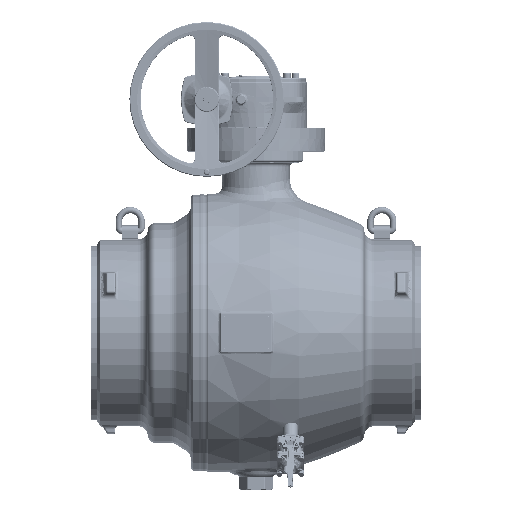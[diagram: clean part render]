
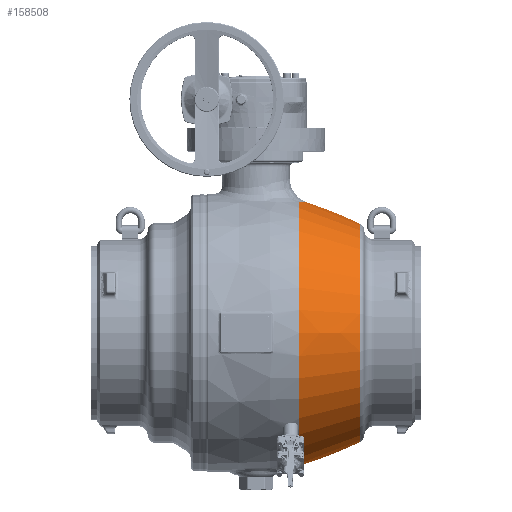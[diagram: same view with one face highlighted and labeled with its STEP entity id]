
A CAD part, top view. The second image highlights one B-rep face of the part: STEP entity #158508.
In plain terms, the highlighted free-form (B-spline) face has degree [3, 3] with [7, 4] control points.
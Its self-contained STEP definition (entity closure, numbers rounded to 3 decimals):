
#36888=CARTESIAN_POINT('',(176.658,-96.05,
531.703));
#36889=CARTESIAN_POINT('',(177.105,-95.395,
531.683));
#36890=CARTESIAN_POINT('',(177.989,-94.081,
531.643));
#36891=CARTESIAN_POINT('',(179.285,-92.099,
531.586));
#36892=CARTESIAN_POINT('',(180.552,-90.105,
531.531));
#36893=CARTESIAN_POINT('',(181.791,-88.101,
531.479));
#36894=CARTESIAN_POINT('',(183.,-86.085,
531.43));
#36895=CARTESIAN_POINT('',(184.18,-84.06,
531.383));
#36896=CARTESIAN_POINT('',(185.33,-82.024,
531.339));
#36897=CARTESIAN_POINT('',(186.452,-79.979,
531.297));
#36898=CARTESIAN_POINT('',(187.544,-77.924,
531.257));
#36899=CARTESIAN_POINT('',(188.606,-75.86,
531.219));
#36900=CARTESIAN_POINT('',(189.639,-73.787,
531.183));
#36901=CARTESIAN_POINT('',(190.643,-71.705,
531.15));
#36902=CARTESIAN_POINT('',(191.617,-69.615,
531.118));
#36903=CARTESIAN_POINT('',(192.562,-67.517,
531.087));
#36904=CARTESIAN_POINT('',(193.477,-65.411,
531.059));
#36905=CARTESIAN_POINT('',(194.362,-63.298,
531.032));
#36906=CARTESIAN_POINT('',(195.218,-61.177,
531.007));
#36907=CARTESIAN_POINT('',(196.044,-59.049,
530.983));
#36908=CARTESIAN_POINT('',(196.84,-56.915,
530.961));
#36909=CARTESIAN_POINT('',(197.607,-54.774,
530.94));
#36910=CARTESIAN_POINT('',(198.343,-52.627,
530.92));
#36911=CARTESIAN_POINT('',(199.05,-50.474,
530.901));
#36912=CARTESIAN_POINT('',(199.727,-48.315,
530.884));
#36913=CARTESIAN_POINT('',(200.374,-46.152,
530.868));
#36914=CARTESIAN_POINT('',(200.991,-43.983,
530.853));
#36915=CARTESIAN_POINT('',(201.578,-41.809,
530.839));
#36916=CARTESIAN_POINT('',(202.135,-39.632,
530.825));
#36917=CARTESIAN_POINT('',(202.662,-37.449,
530.813));
#36918=CARTESIAN_POINT('',(203.159,-35.263,
530.802));
#36919=CARTESIAN_POINT('',(203.626,-33.074,
530.792));
#36920=CARTESIAN_POINT('',(204.062,-30.881,
530.782));
#36921=CARTESIAN_POINT('',(204.469,-28.685,
530.773));
#36922=CARTESIAN_POINT('',(204.845,-26.487,
530.765));
#36923=CARTESIAN_POINT('',(205.192,-24.286,
530.758));
#36924=CARTESIAN_POINT('',(205.508,-22.083,
530.751));
#36925=CARTESIAN_POINT('',(205.794,-19.878,
530.745));
#36926=CARTESIAN_POINT('',(206.05,-17.671,
530.74));
#36927=CARTESIAN_POINT('',(206.276,-15.464,
530.735));
#36928=CARTESIAN_POINT('',(206.472,-13.255,
530.732));
#36929=CARTESIAN_POINT('',(206.637,-11.046,
530.728));
#36930=CARTESIAN_POINT('',(206.773,-8.836,
530.725));
#36931=CARTESIAN_POINT('',(206.878,-6.626,
530.723));
#36932=CARTESIAN_POINT('',(206.953,-4.417,
530.722));
#36933=CARTESIAN_POINT('',(206.998,-2.208,
530.721));
#36934=CARTESIAN_POINT('',(207.008,-0.736,
530.721));
#36935=CARTESIAN_POINT('',(207.008,0.,530.721));
#36937=CARTESIAN_POINT('',(-335.347,0.,-1133.116));
#36938=DIRECTION('',(0.,-1.,0.));
#36939=DIRECTION('',(0.433,0.,0.901));
#36940=AXIS2_PLACEMENT_3D('',#36937,#36938,#36939);
#36942=CARTESIAN_POINT('',(423.,0.,0.));
#36943=DIRECTION('',(1.,0.,0.));
#36944=DIRECTION('',(0.,0.,1.));
#36945=AXIS2_PLACEMENT_3D('',#36942,#36943,#36944);
#36947=CARTESIAN_POINT('',(-335.347,0.,
1133.116));
#36948=DIRECTION('',(0.,1.,0.));
#36949=DIRECTION('',(0.433,0.,-0.901));
#36950=AXIS2_PLACEMENT_3D('',#36947,#36948,#36949);
#37195=CARTESIAN_POINT('',(176.658,-96.05,
531.703));
#37197=CARTESIAN_POINT('',(176.658,0.,0.));
#37198=DIRECTION('',(1.,0.,0.));
#37199=DIRECTION('',(0.,-0.178,0.984));
#37200=AXIS2_PLACEMENT_3D('',#37197,#37198,#37199);
#94841=CARTESIAN_POINT('',(423.,0.,
-444.037));
#94842=CARTESIAN_POINT('',(176.658,0.,
-540.309));
#94843=VERTEX_POINT('',#94841);
#94844=VERTEX_POINT('',#94842);
#94845=CARTESIAN_POINT('',(423.,0.,444.037));
#94846=VERTEX_POINT('',#94845);
#94848=VERTEX_POINT('',#37195);
#94851=VERTEX_POINT('',#36935);
#158471=CARTESIAN_POINT('',(427.769,27.737,
-440.864));
#158472=CARTESIAN_POINT('',(345.093,30.252,
-480.846));
#158473=CARTESIAN_POINT('',(259.525,32.352,
-514.221));
#158474=CARTESIAN_POINT('',(171.593,34.023,
-540.781));
#158475=CARTESIAN_POINT('',(427.769,-243.57,
-457.933));
#158476=CARTESIAN_POINT('',(345.093,-265.66,
-499.463));
#158477=CARTESIAN_POINT('',(259.525,-284.099,
-534.13));
#158478=CARTESIAN_POINT('',(171.593,-298.773,
-561.719));
#158479=CARTESIAN_POINT('',(427.769,-441.735,
-271.843));
#158480=CARTESIAN_POINT('',(345.093,-481.797,
-296.497));
#158481=CARTESIAN_POINT('',(259.525,-515.238,
-317.077));
#158482=CARTESIAN_POINT('',(171.593,-541.851,
-333.454));
#158483=CARTESIAN_POINT('',(427.769,-441.735,
0.));
#158484=CARTESIAN_POINT('',(345.093,-481.797,
0.));
#158485=CARTESIAN_POINT('',(259.525,-515.238,
0.));
#158486=CARTESIAN_POINT('',(171.593,-541.851,
0.));
#158487=CARTESIAN_POINT('',(427.769,-441.735,
271.843));
#158488=CARTESIAN_POINT('',(345.093,-481.797,
296.497));
#158489=CARTESIAN_POINT('',(259.525,-515.238,
317.077));
#158490=CARTESIAN_POINT('',(171.593,-541.851,
333.454));
#158491=CARTESIAN_POINT('',(427.769,-243.57,
457.933));
#158492=CARTESIAN_POINT('',(345.093,-265.66,
499.463));
#158493=CARTESIAN_POINT('',(259.525,-284.099,
534.13));
#158494=CARTESIAN_POINT('',(171.593,-298.773,
561.719));
#158495=CARTESIAN_POINT('',(427.769,27.737,
440.864));
#158496=CARTESIAN_POINT('',(345.093,30.252,
480.846));
#158497=CARTESIAN_POINT('',(259.525,32.352,
514.221));
#158498=CARTESIAN_POINT('',(171.593,34.023,
540.781));
#158499=(BOUNDED_SURFACE()B_SPLINE_SURFACE(3,3,((#158471,#158472,#158473,
#158474),(#158475,#158476,#158477,#158478),(#158479,#158480,#158481,#158482),(
#158483,#158484,#158485,#158486),(#158487,#158488,#158489,#158490),(#158491,
#158492,#158493,#158494),(#158495,#158496,#158497,#158498)),.UNSPECIFIED.,.F.,
.F.,.F.)B_SPLINE_SURFACE_WITH_KNOTS((4,3,4),(4,4),(0.,1.,2.),(0.,1.),
.UNSPECIFIED.)GEOMETRIC_REPRESENTATION_ITEM()RATIONAL_B_SPLINE_SURFACE(((
1.189,1.187,1.187,1.189),(
0.939,0.937,0.937,0.939),(
0.939,0.937,0.937,0.939),(
1.189,1.187,1.187,1.189),(
0.939,0.937,0.937,0.939),(
0.939,0.937,0.937,0.939),(
1.189,1.187,1.187,1.189)))REPRESENTATION_ITEM('')SURFACE());
#158500=ORIENTED_EDGE('',*,*,#158461,.T.);
#158501=ORIENTED_EDGE('',*,*,#157184,.F.);
#158502=ORIENTED_EDGE('',*,*,#157115,.T.);
#158503=ORIENTED_EDGE('',*,*,#157181,.T.);
#158505=ORIENTED_EDGE('',*,*,#158504,.F.);
#158506=EDGE_LOOP('',(#158500,#158501,#158502,#158503,#158505));
#158507=FACE_OUTER_BOUND('',#158506,.F.);
#158508=ADVANCED_FACE('',(#158507),#158499,.T.);
#36936=B_SPLINE_CURVE_WITH_KNOTS('',3,(#36888,#36889,#36890,#36891,#36892,
#36893,#36894,#36895,#36896,#36897,#36898,#36899,#36900,#36901,#36902,#36903,
#36904,#36905,#36906,#36907,#36908,#36909,#36910,#36911,#36912,#36913,#36914,
#36915,#36916,#36917,#36918,#36919,#36920,#36921,#36922,#36923,#36924,#36925,
#36926,#36927,#36928,#36929,#36930,#36931,#36932,#36933,#36934,#36935),
.UNSPECIFIED.,.F.,.F.,(4,1,1,1,1,1,1,1,1,1,1,1,1,1,1,1,1,1,1,1,1,1,1,1,1,1,1,1,
1,1,1,1,1,1,1,1,1,1,1,1,1,1,1,1,1,4),(0.,0.022,0.044,
0.067,0.089,0.111,0.133,
0.156,0.178,0.2,0.222,0.244,
0.267,0.289,0.311,0.333,
0.356,0.378,0.4,0.422,0.444,
0.467,0.489,0.511,0.533,
0.556,0.578,0.6,0.622,0.644,
0.667,0.689,0.711,0.733,
0.756,0.778,0.8,0.822,0.844,
0.867,0.889,0.911,0.933,
0.956,0.978,1.),.UNSPECIFIED.);
#36941=CIRCLE('',#36940,1750.);
#36946=CIRCLE('',#36945,444.037);
#36951=CIRCLE('',#36950,1750.);
#37201=CIRCLE('',#37200,540.309);
#157115=EDGE_CURVE('',#94846,#94843,#36946,.T.);
#157181=EDGE_CURVE('',#94843,#94844,#36951,.T.);
#157184=EDGE_CURVE('',#94846,#94851,#36941,.T.);
#158461=EDGE_CURVE('',#94848,#94851,#36936,.T.);
#158504=EDGE_CURVE('',#94848,#94844,#37201,.T.);
